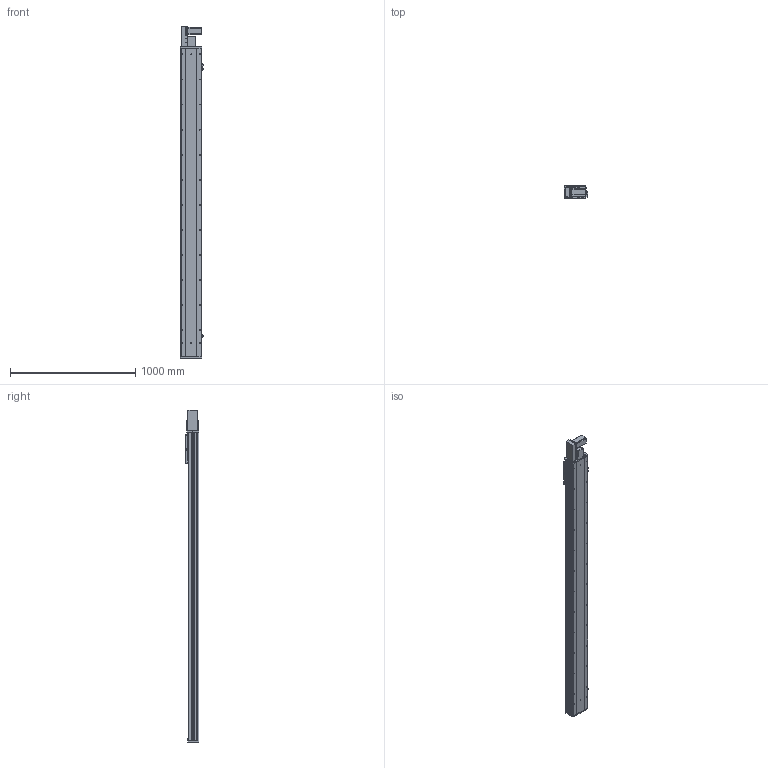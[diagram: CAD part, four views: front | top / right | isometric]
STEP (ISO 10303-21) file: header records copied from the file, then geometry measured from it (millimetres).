
FILE_DESCRIPTION (( 'STEP AP203' ), '1' );
FILE_NAME ('Y170CB-D105-S2150-BL-P400W.STEP', '2020-02-20T01:40:27', ( '微软用户' ), ( '微软中国' ), 'SwSTEP 2.0', 'SolidWorks 2017', '' );
FILE_SCHEMA (( 'CONFIG_CONTROL_DESIGN' ));
Length unit declared in the file: millimetre
Products named in the file (18): Y1埴倛裔; 70C--詩湍揤踡え-; B-源倛裔啣; Y170CB-D105-S2150-BL-P400W; 70CB--耜裔; 17B-耜蚾蟀諉啣----; 70C-雄赽釱-奻-; 0B-萇儂楊擘啣; 0C--雄赽釱俋欶-170; san松下电机400不带刹车----; 70CB-詩湍--; Y70俋欶BR----; Y100-135俋离換覜ん--; 70CB-掛极-; Y170CB-陔俋离換覜結え---; --70CB --喘謫眊楊擘啣-; 70B喘謫眊----; 70CB-耜裔啣-
Assembly tree (21 placements, depth 2):
  Y170CB-D105-S2150-BL-P400W
    B-源倛裔啣
    17B-耜蚾蟀諉啣----
    0B-萇儂楊擘啣
    san松下电机400不带刹车----
    Y70俋欶BR----
    70CB-掛极-
    --70CB --喘謫眊楊擘啣-
    70CB-耜裔啣-  x2
    70C--詩湍揤踡え-  x2
    70CB--耜裔
    70C-雄赽釱-奻-
    0C--雄赽釱俋欶-170
    70CB-詩湍--
    Y100-135俋离換覜ん--  x3
    Y170CB-陔俋离換覜結え---
    70B喘謫眊----
    Y1埴倛裔
Bounding box: 183.5 x 107 x 2647 mm (x, y, z)
Volume: 11065251.4 mm3; surface area: 3989954.4 mm2
Topology: 21 solids, 21 shells, 1055 faces, 2837 edges, 1882 vertices
Faces by surface type: cylinder 567, plane 464, cone 24
Entity records: 33780 total; most frequent: CARTESIAN_POINT 6216, DIRECTION 5494, ORIENTED_EDGE 5156, EDGE_CURVE 2578, AXIS2_PLACEMENT_3D 2024, VERTEX_POINT 1712, LINE 1446, VECTOR 1446
